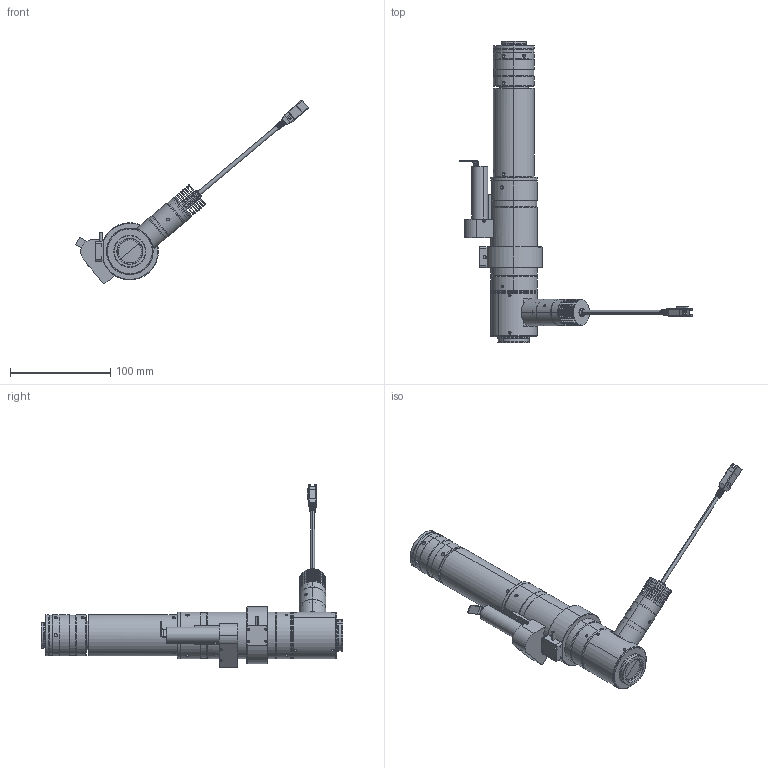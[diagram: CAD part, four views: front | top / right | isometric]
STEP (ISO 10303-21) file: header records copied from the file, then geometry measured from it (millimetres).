
FILE_DESCRIPTION (( 'STEP AP203' ), '1' );
FILE_NAME ('RK-PZ83C（含1X镜管、点光源）.STEP', '2023-10-11T02:07:12', ( 'Windows 用户' ), ( 'Organization' ), 'SwSTEP 2.0', 'SolidWorks 2018', '' );
FILE_SCHEMA (( 'CONFIG_CONTROL_DESIGN' ));
Length unit declared in the file: millimetre
Products named in the file (1): RK-PZ83C（含1X镜管、点光源）
Bounding box: 232.61 x 300.88 x 183.28 mm (x, y, z)
Volume: 250551.6 mm3; surface area: 153300 mm2
Topology: 25 solids, 25 shells, 1391 faces, 3308 edges, 2063 vertices
Faces by surface type: cylinder 512, plane 484, cone 345, bspline 32, sphere 10, torus 8
Entity records: 45858 total; most frequent: CARTESIAN_POINT 13091, DIRECTION 6983, ORIENTED_EDGE 6560, EDGE_CURVE 3280, AXIS2_PLACEMENT_3D 2657, VERTEX_POINT 2063, EDGE_LOOP 1695, VECTOR 1669
